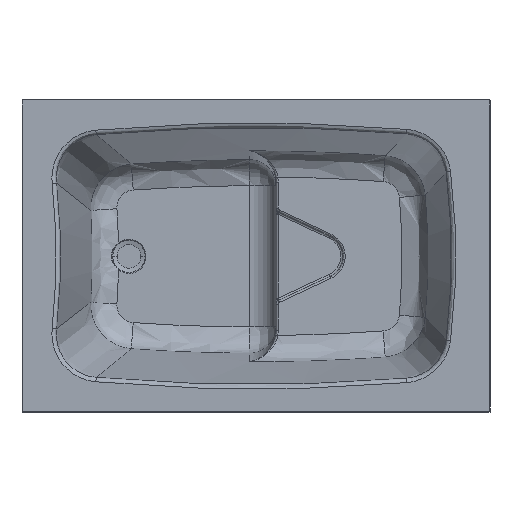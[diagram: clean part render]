
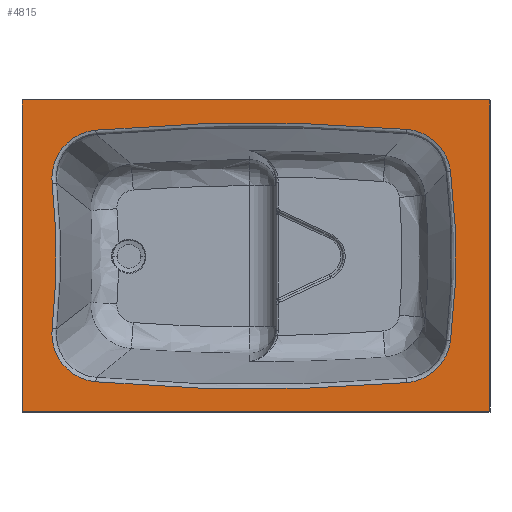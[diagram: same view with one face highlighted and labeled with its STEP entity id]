
A CAD part, top view. The second image highlights one B-rep face of the part: STEP entity #4815.
In plain terms, the highlighted planar face has unit normal (0, 0, 1).
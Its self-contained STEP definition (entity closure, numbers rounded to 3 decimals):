
#7=CARTESIAN_POINT('',(1050.0,700.,0.0));
#8=VERTEX_POINT('',#7);
#25=CARTESIAN_POINT('',(0.,700.,0.0));
#26=VERTEX_POINT('',#25);
#33=CARTESIAN_POINT('',(1050.,700.,0.0));
#34=DIRECTION('',(-1.0,0.0,0.0));
#35=VECTOR('',#34,1050.0);
#36=LINE('',#33,#35);
#37=EDGE_CURVE('',#8,#26,#36,.T.);
#47=CARTESIAN_POINT('',(1050.0,0.,0.0));
#48=VERTEX_POINT('',#47);
#64=CARTESIAN_POINT('',(1050.0,0.,0.0));
#65=DIRECTION('',(0.0,1.0,0.0));
#66=VECTOR('',#65,700.0);
#67=LINE('',#64,#66);
#68=EDGE_CURVE('',#48,#8,#67,.T.);
#78=CARTESIAN_POINT('',(0.0,0.0,0.0));
#79=VERTEX_POINT('',#78);
#95=CARTESIAN_POINT('',(0.0,0.0,0.0));
#96=DIRECTION('',(1.0,0.0,0.0));
#97=VECTOR('',#96,1050.0);
#98=LINE('',#95,#97);
#99=EDGE_CURVE('',#79,#48,#98,.T.);
#117=CARTESIAN_POINT('',(0.0,700.,0.0));
#118=DIRECTION('',(0.0,-1.0,0.0));
#119=VECTOR('',#118,700.);
#120=LINE('',#117,#119);
#121=EDGE_CURVE('',#26,#79,#120,.T.);
#4692=CARTESIAN_POINT('',(-80.533,9.381,0.0));
#4693=DIRECTION('',(0.0,0.0,1.0));
#4694=DIRECTION('',(0.993,-0.116,0.0));
#4695=AXIS2_PLACEMENT_3D('',#4692,#4693,#4694);
#4696=PLANE('',#4695);
#4697=ORIENTED_EDGE('',*,*,#99,.T.);
#4698=ORIENTED_EDGE('',*,*,#68,.T.);
#4699=ORIENTED_EDGE('',*,*,#37,.T.);
#4700=ORIENTED_EDGE('',*,*,#121,.T.);
#4701=EDGE_LOOP('',(#4697,#4698,#4699,#4700));
#4702=FACE_OUTER_BOUND('',#4701,.T.);
#4703=CARTESIAN_POINT('',(961.403,160.203,0.0));
#4704=VERTEX_POINT('',#4703);
#4705=CARTESIAN_POINT('',(961.403,539.797,0.0));
#4706=VERTEX_POINT('',#4705);
#4707=CARTESIAN_POINT('',(-535.,350.,0.0));
#4708=DIRECTION('',(0.0,0.0,1.));
#4709=DIRECTION('',(0.973,-0.23,0.0));
#4710=AXIS2_PLACEMENT_3D('',#4707,#4708,#4709);
#4711=CIRCLE('',#4710,1508.391);
#4712=EDGE_CURVE('',#4704,#4706,#4711,.T.);
#4713=ORIENTED_EDGE('',*,*,#4712,.F.);
#4714=CARTESIAN_POINT('',(863.071,65.891,0.0));
#4715=VERTEX_POINT('',#4714);
#4716=CARTESIAN_POINT('',(961.403,160.203,0.0));
#4717=CARTESIAN_POINT('',(960.977,156.845,0.0));
#4718=CARTESIAN_POINT('',(959.513,148.426,0.0));
#4719=CARTESIAN_POINT('',(956.198,137.267,0.0));
#4720=CARTESIAN_POINT('',(950.974,124.991,0.0));
#4721=CARTESIAN_POINT('',(942.917,110.773,0.0));
#4722=CARTESIAN_POINT('',(929.121,94.391,0.0));
#4723=CARTESIAN_POINT('',(912.318,81.764,0.0));
#4724=CARTESIAN_POINT('',(897.875,74.49,0.0));
#4725=CARTESIAN_POINT('',(885.533,69.919,0.0));
#4726=CARTESIAN_POINT('',(874.287,67.187,0.0));
#4727=CARTESIAN_POINT('',(866.167,66.153,0.0));
#4728=CARTESIAN_POINT('',(863.071,65.891,0.0));
#4729=B_SPLINE_CURVE_WITH_KNOTS('',3,(#4716,#4717,#4718,#4719,#4720,#4721,#4722,#4723,#4724,#4725,#4726,#4727,#4728),.UNSPECIFIED.,.F.,.U.,(4,1,1,1,1,1,1,1,1,1,4),(0.0,10.16,25.6,34.839,50.146,74.505,98.677,112.804,122.914,138.119,147.443),.UNSPECIFIED.);
#4730=EDGE_CURVE('',#4704,#4715,#4729,.T.);
#4731=ORIENTED_EDGE('',*,*,#4730,.T.);
#4732=CARTESIAN_POINT('',(165.698,67.745,0.0));
#4733=VERTEX_POINT('',#4732);
#4734=CARTESIAN_POINT('',(525.,4060.0,0.0));
#4735=DIRECTION('',(0.0,0.0,1.0));
#4736=DIRECTION('',(0.38,-0.925,0.0));
#4737=AXIS2_PLACEMENT_3D('',#4734,#4735,#4736);
#4738=CIRCLE('',#4737,4008.391);
#4739=EDGE_CURVE('',#4733,#4715,#4738,.T.);
#4740=ORIENTED_EDGE('',*,*,#4739,.F.);
#4741=CARTESIAN_POINT('',(67.725,187.443,0.0));
#4742=VERTEX_POINT('',#4741);
#4743=CARTESIAN_POINT('',(165.698,67.745,0.0));
#4744=CARTESIAN_POINT('',(163.268,67.964,0.0));
#4745=CARTESIAN_POINT('',(156.645,68.779,0.0));
#4746=CARTESIAN_POINT('',(146.393,70.992,0.0));
#4747=CARTESIAN_POINT('',(134.188,75.066,0.0));
#4748=CARTESIAN_POINT('',(118.681,82.382,0.0));
#4749=CARTESIAN_POINT('',(100.704,95.371,0.0));
#4750=CARTESIAN_POINT('',(84.046,115.017,0.0));
#4751=CARTESIAN_POINT('',(74.106,134.923,0.0));
#4752=CARTESIAN_POINT('',(69.531,151.029,0.0));
#4753=CARTESIAN_POINT('',(67.331,164.522,0.0));
#4754=CARTESIAN_POINT('',(66.825,176.171,0.0));
#4755=CARTESIAN_POINT('',(67.398,184.466,0.0));
#4756=CARTESIAN_POINT('',(67.725,187.443,0.0));
#4757=B_SPLINE_CURVE_WITH_KNOTS('',3,(#4743,#4744,#4745,#4746,#4747,#4748,#4749,#4750,#4751,#4752,#4753,#4754,#4755,#4756),.UNSPECIFIED.,.F.,.U.,(4,1,1,1,1,1,1,1,1,1,1,4),(0.0,7.322,20.005,31.415,45.868,71.33,97.486,122.558,137.624,147.595,163.527,172.515),.UNSPECIFIED.);
#4758=EDGE_CURVE('',#4733,#4742,#4757,.T.);
#4759=ORIENTED_EDGE('',*,*,#4758,.T.);
#4760=CARTESIAN_POINT('',(67.725,512.557,0.0));
#4761=VERTEX_POINT('',#4760);
#4762=CARTESIAN_POINT('',(-1415.,350.,0.0));
#4763=DIRECTION('',(0.0,0.0,1.));
#4764=DIRECTION('',(0.973,-0.23,0.0));
#4765=AXIS2_PLACEMENT_3D('',#4762,#4763,#4764);
#4766=CIRCLE('',#4765,1491.609);
#4767=EDGE_CURVE('',#4742,#4761,#4766,.T.);
#4768=ORIENTED_EDGE('',*,*,#4767,.T.);
#4769=CARTESIAN_POINT('',(165.698,632.255,0.0));
#4770=VERTEX_POINT('',#4769);
#4771=CARTESIAN_POINT('',(165.698,632.255,0.0));
#4772=CARTESIAN_POINT('',(163.268,632.036,0.0));
#4773=CARTESIAN_POINT('',(156.645,631.221,0.0));
#4774=CARTESIAN_POINT('',(146.393,629.008,0.0));
#4775=CARTESIAN_POINT('',(134.188,624.934,0.0));
#4776=CARTESIAN_POINT('',(118.681,617.618,0.0));
#4777=CARTESIAN_POINT('',(100.704,604.629,0.0));
#4778=CARTESIAN_POINT('',(84.046,584.983,0.0));
#4779=CARTESIAN_POINT('',(74.106,565.077,0.0));
#4780=CARTESIAN_POINT('',(69.531,548.971,0.0));
#4781=CARTESIAN_POINT('',(67.331,535.478,0.0));
#4782=CARTESIAN_POINT('',(66.825,523.829,0.0));
#4783=CARTESIAN_POINT('',(67.398,515.534,0.0));
#4784=CARTESIAN_POINT('',(67.725,512.557,0.0));
#4785=B_SPLINE_CURVE_WITH_KNOTS('',3,(#4771,#4772,#4773,#4774,#4775,#4776,#4777,#4778,#4779,#4780,#4781,#4782,#4783,#4784),.UNSPECIFIED.,.F.,.U.,(4,1,1,1,1,1,1,1,1,1,1,4),(0.0,7.322,20.005,31.415,45.868,71.33,97.486,122.558,137.624,147.595,163.527,172.515),.UNSPECIFIED.);
#4786=EDGE_CURVE('',#4770,#4761,#4785,.T.);
#4787=ORIENTED_EDGE('',*,*,#4786,.F.);
#4788=CARTESIAN_POINT('',(863.071,634.109,0.0));
#4789=VERTEX_POINT('',#4788);
#4790=CARTESIAN_POINT('',(525.,-3360.,0.0));
#4791=DIRECTION('',(0.0,0.0,-1.));
#4792=DIRECTION('',(0.38,0.925,0.0));
#4793=AXIS2_PLACEMENT_3D('',#4790,#4791,#4792);
#4794=CIRCLE('',#4793,4008.391);
#4795=EDGE_CURVE('',#4770,#4789,#4794,.T.);
#4796=ORIENTED_EDGE('',*,*,#4795,.T.);
#4797=CARTESIAN_POINT('',(961.403,539.797,0.0));
#4798=CARTESIAN_POINT('',(960.977,543.155,0.0));
#4799=CARTESIAN_POINT('',(959.513,551.574,0.0));
#4800=CARTESIAN_POINT('',(956.198,562.733,0.0));
#4801=CARTESIAN_POINT('',(950.974,575.009,0.0));
#4802=CARTESIAN_POINT('',(942.917,589.227,0.0));
#4803=CARTESIAN_POINT('',(929.121,605.609,0.0));
#4804=CARTESIAN_POINT('',(912.318,618.236,0.0));
#4805=CARTESIAN_POINT('',(897.875,625.51,0.0));
#4806=CARTESIAN_POINT('',(885.533,630.081,0.0));
#4807=CARTESIAN_POINT('',(874.287,632.813,0.0));
#4808=CARTESIAN_POINT('',(866.167,633.847,0.0));
#4809=CARTESIAN_POINT('',(863.071,634.109,0.0));
#4810=B_SPLINE_CURVE_WITH_KNOTS('',3,(#4797,#4798,#4799,#4800,#4801,#4802,#4803,#4804,#4805,#4806,#4807,#4808,#4809),.UNSPECIFIED.,.F.,.U.,(4,1,1,1,1,1,1,1,1,1,4),(0.0,10.16,25.6,34.839,50.146,74.505,98.677,112.804,122.914,138.119,147.443),.UNSPECIFIED.);
#4811=EDGE_CURVE('',#4706,#4789,#4810,.T.);
#4812=ORIENTED_EDGE('',*,*,#4811,.F.);
#4813=EDGE_LOOP('',(#4713,#4731,#4740,#4759,#4768,#4787,#4796,#4812));
#4814=FACE_BOUND('',#4813,.T.);
#4815=ADVANCED_FACE('',(#4702,#4814),#4696,.T.);
